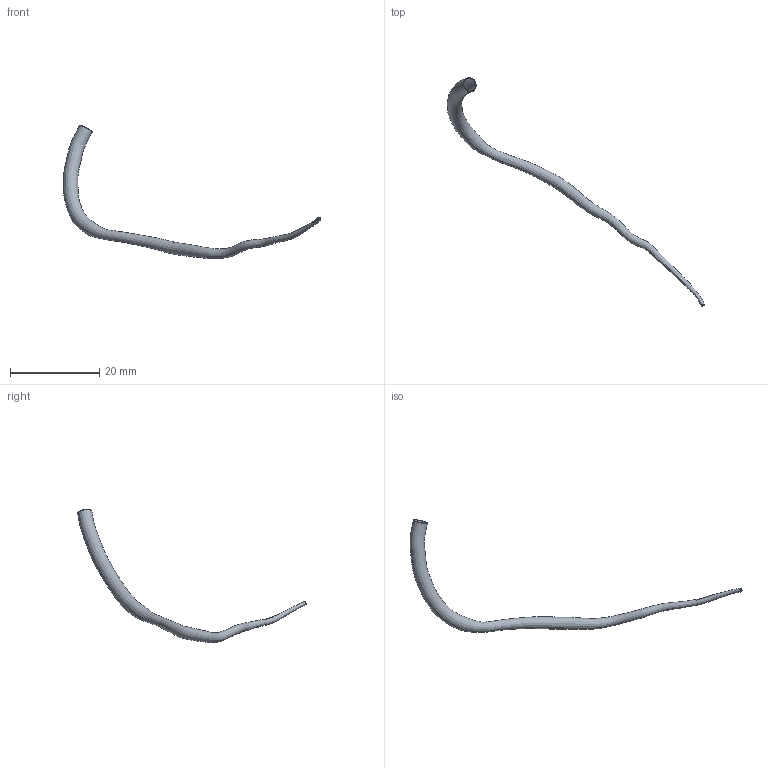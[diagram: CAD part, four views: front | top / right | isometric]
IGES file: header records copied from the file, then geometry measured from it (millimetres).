
Global section: file name: C:\Documents and Settings\Administrator\Desktop\FDA-Pig\Domestic LCA\Pig_000137\lad.seg.ed.igs; native system: Rhinoceros ( May 19 2006 ); preprocessor: Trout Lake IGES 012 May 19 2006; date: 111205.184130; units: centimetre
Bounding box: 57.6 x 51.17 x 29.85 mm (x, y, z)
Surface area: 1339 mm2 (no closed solid volume)
Topology: 0 solids, 0 shells, 4 faces, 13 edges, 10 vertices
Faces by surface type: bspline 4
